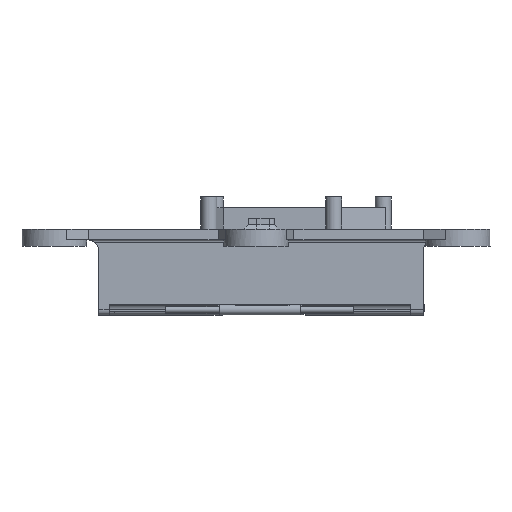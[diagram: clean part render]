
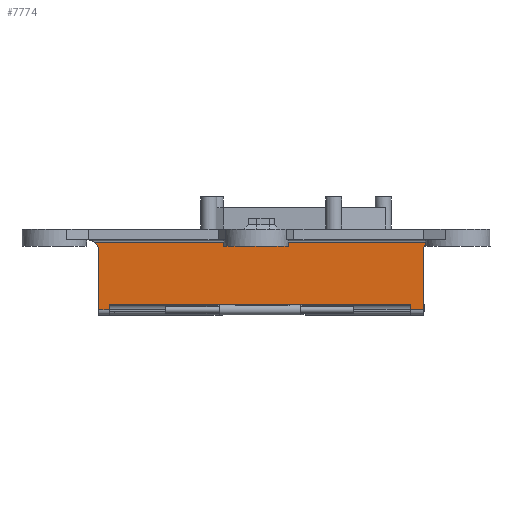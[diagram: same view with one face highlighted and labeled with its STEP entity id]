
A CAD part, left-side view. The second image highlights one B-rep face of the part: STEP entity #7774.
In plain terms, the highlighted planar face has unit normal (-1, 0, 0).
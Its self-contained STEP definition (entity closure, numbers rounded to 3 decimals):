
#805=LINE('',#13423,#1417);
#806=LINE('',#13428,#1418);
#807=LINE('',#13430,#1419);
#808=LINE('',#13432,#1420);
#809=LINE('',#13434,#1421);
#810=LINE('',#13436,#1422);
#811=LINE('',#13438,#1423);
#812=LINE('',#13440,#1424);
#813=LINE('',#13443,#1425);
#1417=VECTOR('',#9174,10.);
#1418=VECTOR('',#9179,10.);
#1419=VECTOR('',#9180,10.);
#1420=VECTOR('',#9181,10.);
#1421=VECTOR('',#9182,10.);
#1422=VECTOR('',#9183,10.);
#1423=VECTOR('',#9184,10.);
#1424=VECTOR('',#9185,10.);
#1425=VECTOR('',#9188,10.);
#2123=FACE_OUTER_BOUND('',#2615,.T.);
#2615=EDGE_LOOP('',(#6205,#6206,#6207,#6208,#6209,#6210,#6211,#6212,#6213,
#6214,#6215));
#2985=CIRCLE('',#8176,5.);
#2986=CIRCLE('',#8177,5.);
#3569=VERTEX_POINT('',#13403);
#3571=VERTEX_POINT('',#13416);
#3572=VERTEX_POINT('',#13425);
#3573=VERTEX_POINT('',#13427);
#3574=VERTEX_POINT('',#13429);
#3575=VERTEX_POINT('',#13431);
#3576=VERTEX_POINT('',#13433);
#3577=VERTEX_POINT('',#13435);
#3578=VERTEX_POINT('',#13437);
#3579=VERTEX_POINT('',#13439);
#3580=VERTEX_POINT('',#13441);
#4530=EDGE_CURVE('',#3571,#3569,#805,.T.);
#4531=EDGE_CURVE('',#3572,#3571,#2985,.T.);
#4532=EDGE_CURVE('',#3572,#3573,#806,.T.);
#4533=EDGE_CURVE('',#3573,#3574,#807,.T.);
#4534=EDGE_CURVE('',#3575,#3574,#808,.T.);
#4535=EDGE_CURVE('',#3576,#3575,#809,.T.);
#4536=EDGE_CURVE('',#3576,#3577,#810,.T.);
#4537=EDGE_CURVE('',#3577,#3578,#811,.T.);
#4538=EDGE_CURVE('',#3579,#3578,#812,.T.);
#4539=EDGE_CURVE('',#3579,#3580,#2986,.F.);
#4540=EDGE_CURVE('',#3569,#3580,#813,.T.);
#6205=ORIENTED_EDGE('',*,*,#4530,.F.);
#6206=ORIENTED_EDGE('',*,*,#4531,.F.);
#6207=ORIENTED_EDGE('',*,*,#4532,.T.);
#6208=ORIENTED_EDGE('',*,*,#4533,.T.);
#6209=ORIENTED_EDGE('',*,*,#4534,.F.);
#6210=ORIENTED_EDGE('',*,*,#4535,.F.);
#6211=ORIENTED_EDGE('',*,*,#4536,.T.);
#6212=ORIENTED_EDGE('',*,*,#4537,.T.);
#6213=ORIENTED_EDGE('',*,*,#4538,.F.);
#6214=ORIENTED_EDGE('',*,*,#4539,.T.);
#6215=ORIENTED_EDGE('',*,*,#4540,.F.);
#7431=PLANE('',#8175);
#7774=ADVANCED_FACE('',(#2123),#7431,.T.);
#8175=AXIS2_PLACEMENT_3D('',#13424,#9175,#9176);
#8176=AXIS2_PLACEMENT_3D('',#13426,#9177,#9178);
#8177=AXIS2_PLACEMENT_3D('',#13442,#9186,#9187);
#9174=DIRECTION('',(0.,-1.,0.));
#9175=DIRECTION('center_axis',(-1.,0.,0.));
#9176=DIRECTION('ref_axis',(0.,1.,0.));
#9177=DIRECTION('center_axis',(-1.,0.,0.));
#9178=DIRECTION('ref_axis',(0.,-0.707,0.707));
#9179=DIRECTION('',(0.,0.,-1.));
#9180=DIRECTION('',(0.,-1.,0.));
#9181=DIRECTION('',(0.,0.,-1.));
#9182=DIRECTION('',(0.,1.,0.));
#9183=DIRECTION('',(0.,0.,-1.));
#9184=DIRECTION('',(0.,-1.,0.));
#9185=DIRECTION('',(0.,0.,-1.));
#9186=DIRECTION('center_axis',(-1.,0.,0.));
#9187=DIRECTION('ref_axis',(0.,0.707,0.707));
#9188=DIRECTION('',(0.,0.,-1.));
#13403=CARTESIAN_POINT('',(-280.019,-88.79,-12.));
#13416=CARTESIAN_POINT('',(-280.019,65.095,-12.));
#13423=CARTESIAN_POINT('',(-280.019,-48.894,-12.));
#13424=CARTESIAN_POINT('Origin',(-280.019,-87.78,-11.));
#13425=CARTESIAN_POINT('',(-280.019,63.095,-16.));
#13426=CARTESIAN_POINT('Origin',(-280.019,68.095,-16.));
#13427=CARTESIAN_POINT('',(-280.019,63.095,-43.5));
#13428=CARTESIAN_POINT('',(-280.019,63.095,-11.));
#13429=CARTESIAN_POINT('',(-280.019,58.095,-43.5));
#13430=CARTESIAN_POINT('',(-280.019,-81.619,-43.5));
#13431=CARTESIAN_POINT('',(-280.019,58.095,-41.));
#13432=CARTESIAN_POINT('',(-280.019,58.095,-41.));
#13433=CARTESIAN_POINT('',(-280.019,-81.619,-41.));
#13434=CARTESIAN_POINT('',(-280.019,-87.78,-41.));
#13435=CARTESIAN_POINT('',(-280.019,-81.619,-43.5));
#13436=CARTESIAN_POINT('',(-280.019,-81.619,-41.));
#13437=CARTESIAN_POINT('',(-280.019,-87.78,-43.5));
#13438=CARTESIAN_POINT('',(-280.019,-81.619,-43.5));
#13439=CARTESIAN_POINT('',(-280.019,-87.78,-16.));
#13440=CARTESIAN_POINT('',(-280.019,-87.78,-11.));
#13441=CARTESIAN_POINT('',(-280.019,-88.79,-12.987));
#13442=CARTESIAN_POINT('Origin',(-280.019,-92.78,-16.));
#13443=CARTESIAN_POINT('',(-280.019,-88.79,-11.));
